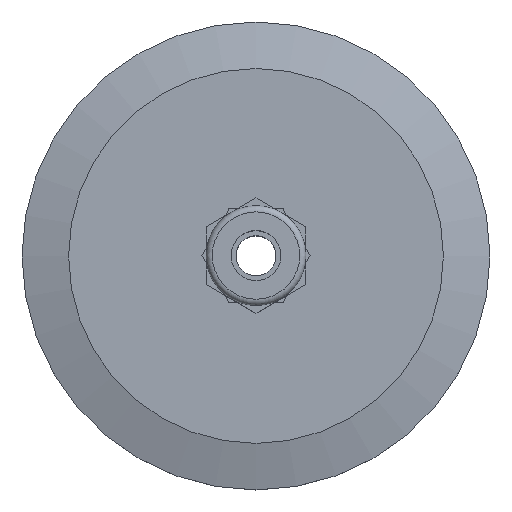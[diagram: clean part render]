
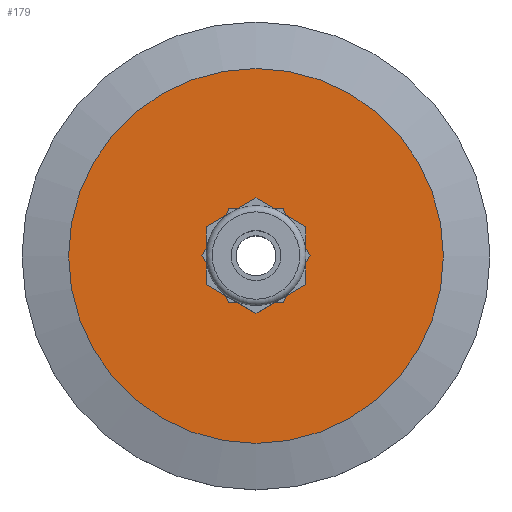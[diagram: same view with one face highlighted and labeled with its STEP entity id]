
A CAD part, top view. The second image highlights one B-rep face of the part: STEP entity #179.
In plain terms, the highlighted planar face has unit normal (0, 0, 1).
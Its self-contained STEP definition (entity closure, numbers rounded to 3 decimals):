
#179 = ADVANCED_FACE( '', ( #350, #351 ), #352, .F. );
#350 = FACE_BOUND( '', #502, .T. );
#351 = FACE_OUTER_BOUND( '', #503, .T. );
#352 = PLANE( '', #504 );
#502 = EDGE_LOOP( '', ( #788 ) );
#503 = EDGE_LOOP( '', ( #789 ) );
#504 = AXIS2_PLACEMENT_3D( '', #790, #791, #792 );
#788 = ORIENTED_EDGE( '', *, *, #809, .F. );
#789 = ORIENTED_EDGE( '', *, *, #829, .T. );
#790 = CARTESIAN_POINT( '', ( 30.036, 0., 5. ) );
#791 = DIRECTION( '', ( 0., 0., -1. ) );
#792 = DIRECTION( '', ( -1., 0., 0. ) );
#809 = EDGE_CURVE( '', #920, #920, #921, .T. );
#829 = EDGE_CURVE( '', #955, #955, #956, .T. );
#920 = VERTEX_POINT( '', #1075 );
#921 = CIRCLE( '', #1076, 6.4 );
#955 = VERTEX_POINT( '', #1120 );
#956 = CIRCLE( '', #1121, 30.036 );
#1075 = CARTESIAN_POINT( '', ( 6.4, 0., 5. ) );
#1076 = AXIS2_PLACEMENT_3D( '', #1274, #1275, #1276 );
#1120 = CARTESIAN_POINT( '', ( 30.036, 0., 5. ) );
#1121 = AXIS2_PLACEMENT_3D( '', #1299, #1300, #1301 );
#1274 = CARTESIAN_POINT( '', ( 0., 0., 5. ) );
#1275 = DIRECTION( '', ( 0., 0., 1. ) );
#1276 = DIRECTION( '', ( 1., 0., 0. ) );
#1299 = CARTESIAN_POINT( '', ( 0., 0., 5. ) );
#1300 = DIRECTION( '', ( 0., 0., 1. ) );
#1301 = DIRECTION( '', ( 1., 0., 0. ) );
